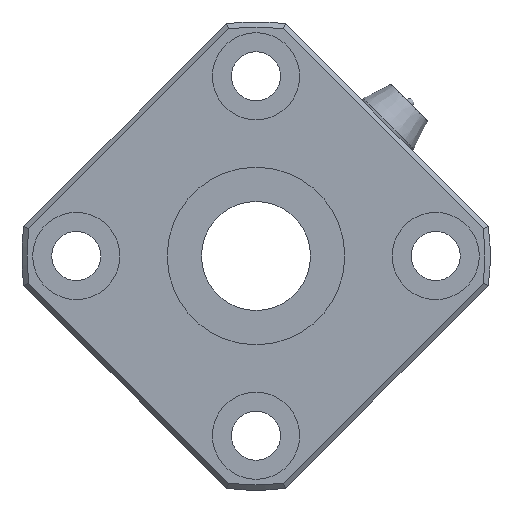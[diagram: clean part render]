
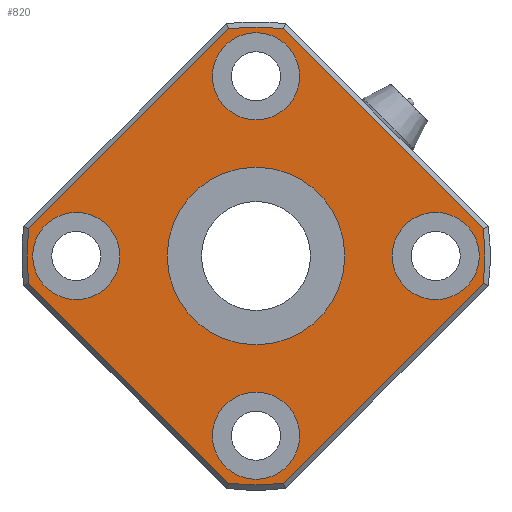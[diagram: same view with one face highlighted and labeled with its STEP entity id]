
A CAD part, left-side view. The second image highlights one B-rep face of the part: STEP entity #820.
In plain terms, the highlighted planar face has unit normal (-1, 0, 0).
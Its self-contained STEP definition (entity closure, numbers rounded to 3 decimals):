
#499=CARTESIAN_POINT('',(0.0,-20.853,-2.482));
#500=VERTEX_POINT('',#499);
#508=CARTESIAN_POINT('',(0.0,-2.482,-20.853));
#509=VERTEX_POINT('',#508);
#510=CARTESIAN_POINT('',(0.0,-20.853,-2.482));
#511=DIRECTION('',(0.0,0.707,-0.707));
#512=VECTOR('',#511,25.981);
#513=LINE('',#510,#512);
#514=EDGE_CURVE('',#500,#509,#513,.T.);
#541=CARTESIAN_POINT('',(0.0,2.482,-20.853));
#542=VERTEX_POINT('',#541);
#543=CARTESIAN_POINT('',(0.0,0.0,0.0));
#544=DIRECTION('',(1.0,0.0,0.0));
#545=DIRECTION('',(0.0,0.0,-1.0));
#546=AXIS2_PLACEMENT_3D('',#543,#544,#545);
#547=CIRCLE('',#546,21.0);
#548=EDGE_CURVE('',#509,#542,#547,.T.);
#572=CARTESIAN_POINT('',(0.0,20.853,-2.482));
#573=VERTEX_POINT('',#572);
#574=CARTESIAN_POINT('',(0.0,2.482,-20.853));
#575=DIRECTION('',(0.0,0.707,0.707));
#576=VECTOR('',#575,25.981);
#577=LINE('',#574,#576);
#578=EDGE_CURVE('',#542,#573,#577,.T.);
#597=CARTESIAN_POINT('',(0.0,20.853,2.482));
#598=VERTEX_POINT('',#597);
#599=CARTESIAN_POINT('',(0.0,0.0,0.0));
#600=DIRECTION('',(1.0,0.0,0.0));
#601=DIRECTION('',(0.0,0.0,1.0));
#602=AXIS2_PLACEMENT_3D('',#599,#600,#601);
#603=CIRCLE('',#602,21.0);
#604=EDGE_CURVE('',#573,#598,#603,.T.);
#623=CARTESIAN_POINT('',(0.0,2.482,20.853));
#624=VERTEX_POINT('',#623);
#625=CARTESIAN_POINT('',(0.0,20.853,2.482));
#626=DIRECTION('',(0.0,-0.707,0.707));
#627=VECTOR('',#626,25.981);
#628=LINE('',#625,#627);
#629=EDGE_CURVE('',#598,#624,#628,.T.);
#648=CARTESIAN_POINT('',(0.0,-2.482,20.853));
#649=VERTEX_POINT('',#648);
#650=CARTESIAN_POINT('',(0.0,0.0,0.0));
#651=DIRECTION('',(1.0,0.0,0.0));
#652=DIRECTION('',(0.0,0.0,1.0));
#653=AXIS2_PLACEMENT_3D('',#650,#651,#652);
#654=CIRCLE('',#653,21.0);
#655=EDGE_CURVE('',#624,#649,#654,.T.);
#674=CARTESIAN_POINT('',(0.0,-20.853,2.482));
#675=VERTEX_POINT('',#674);
#676=CARTESIAN_POINT('',(0.0,-2.482,20.853));
#677=DIRECTION('',(0.0,-0.707,-0.707));
#678=VECTOR('',#677,25.981);
#679=LINE('',#676,#678);
#680=EDGE_CURVE('',#649,#675,#679,.T.);
#705=CARTESIAN_POINT('',(0.0,0.0,0.0));
#706=DIRECTION('',(1.0,0.0,0.0));
#707=DIRECTION('',(0.0,0.0,1.0));
#708=AXIS2_PLACEMENT_3D('',#705,#706,#707);
#709=CIRCLE('',#708,21.0);
#710=EDGE_CURVE('',#675,#500,#709,.T.);
#750=CARTESIAN_POINT('',(0.0,0.0,9.825));
#751=DIRECTION('',(-1.0,0.0,0.0));
#752=DIRECTION('',(0.0,0.0,1.0));
#753=AXIS2_PLACEMENT_3D('',#750,#751,#752);
#754=PLANE('',#753);
#755=ORIENTED_EDGE('',*,*,#514,.F.);
#756=ORIENTED_EDGE('',*,*,#710,.F.);
#757=ORIENTED_EDGE('',*,*,#680,.F.);
#758=ORIENTED_EDGE('',*,*,#655,.F.);
#759=ORIENTED_EDGE('',*,*,#629,.F.);
#760=ORIENTED_EDGE('',*,*,#604,.F.);
#761=ORIENTED_EDGE('',*,*,#578,.F.);
#762=ORIENTED_EDGE('',*,*,#548,.F.);
#763=EDGE_LOOP('',(#755,#756,#757,#758,#759,#760,#761,#762));
#764=FACE_OUTER_BOUND('',#763,.T.);
#765=CARTESIAN_POINT('',(0.0,0.0,8.15));
#766=VERTEX_POINT('',#765);
#767=CARTESIAN_POINT('',(0.0,0.0,0.0));
#768=DIRECTION('',(-1.0,0.0,0.0));
#769=DIRECTION('',(0.0,0.0,1.0));
#770=AXIS2_PLACEMENT_3D('',#767,#768,#769);
#771=CIRCLE('',#770,8.15);
#772=EDGE_CURVE('',#766,#766,#771,.T.);
#773=ORIENTED_EDGE('',*,*,#772,.F.);
#774=EDGE_LOOP('',(#773));
#775=FACE_BOUND('',#774,.T.);
#776=CARTESIAN_POINT('',(0.0,-12.5,0.));
#777=VERTEX_POINT('',#776);
#778=CARTESIAN_POINT('',(0.0,-16.5,0.));
#779=DIRECTION('',(1.0,0.0,0.0));
#780=DIRECTION('',(0.0,1.0,0.0));
#781=AXIS2_PLACEMENT_3D('',#778,#779,#780);
#782=CIRCLE('',#781,4.0);
#783=EDGE_CURVE('',#777,#777,#782,.T.);
#784=ORIENTED_EDGE('',*,*,#783,.T.);
#785=EDGE_LOOP('',(#784));
#786=FACE_BOUND('',#785,.T.);
#787=CARTESIAN_POINT('',(0.0,20.5,0.));
#788=VERTEX_POINT('',#787);
#789=CARTESIAN_POINT('',(0.0,16.5,0.));
#790=DIRECTION('',(1.0,0.0,0.0));
#791=DIRECTION('',(0.0,1.0,0.0));
#792=AXIS2_PLACEMENT_3D('',#789,#790,#791);
#793=CIRCLE('',#792,4.0);
#794=EDGE_CURVE('',#788,#788,#793,.T.);
#795=ORIENTED_EDGE('',*,*,#794,.T.);
#796=EDGE_LOOP('',(#795));
#797=FACE_BOUND('',#796,.T.);
#798=CARTESIAN_POINT('',(0.0,4.,16.5));
#799=VERTEX_POINT('',#798);
#800=CARTESIAN_POINT('',(0.0,0.,16.5));
#801=DIRECTION('',(1.0,0.0,0.0));
#802=DIRECTION('',(0.0,1.0,0.0));
#803=AXIS2_PLACEMENT_3D('',#800,#801,#802);
#804=CIRCLE('',#803,4.0);
#805=EDGE_CURVE('',#799,#799,#804,.T.);
#806=ORIENTED_EDGE('',*,*,#805,.T.);
#807=EDGE_LOOP('',(#806));
#808=FACE_BOUND('',#807,.T.);
#809=CARTESIAN_POINT('',(0.0,4.,-16.5));
#810=VERTEX_POINT('',#809);
#811=CARTESIAN_POINT('',(0.0,0.,-16.5));
#812=DIRECTION('',(1.0,0.0,0.0));
#813=DIRECTION('',(0.0,1.0,0.0));
#814=AXIS2_PLACEMENT_3D('',#811,#812,#813);
#815=CIRCLE('',#814,4.0);
#816=EDGE_CURVE('',#810,#810,#815,.T.);
#817=ORIENTED_EDGE('',*,*,#816,.T.);
#818=EDGE_LOOP('',(#817));
#819=FACE_BOUND('',#818,.T.);
#820=ADVANCED_FACE('',(#764,#775,#786,#797,#808,#819),#754,.T.);
